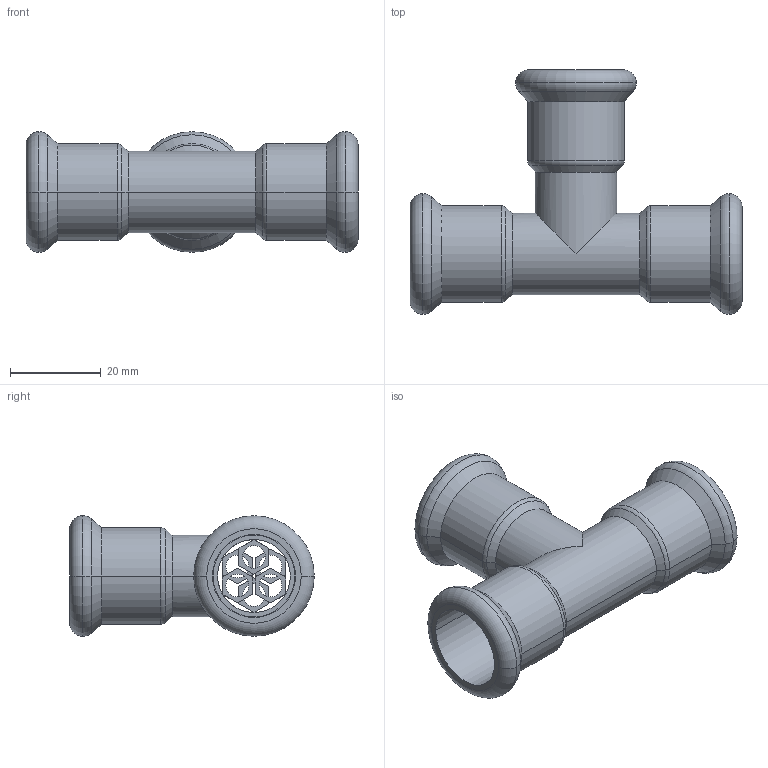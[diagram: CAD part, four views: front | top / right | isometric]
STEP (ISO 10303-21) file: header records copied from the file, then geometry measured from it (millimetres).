
FILE_DESCRIPTION(('OneSpaceDesigner STEP Export'),'2;1');
FILE_NAME('R2714 18x18x18.stp','2010-06-10T 8:36:35',(''),(''),'OneSpace Designer STEP processor for AP214 (Solid Model)','OneSpace Modeling 15.00A 14-Mar-2007 (C) CoCreate Software GmbH','');
FILE_SCHEMA(('AUTOMOTIVE_DESIGN { 1 0 10303 214 1 1 1 1 }'));
Length unit declared in the file: millimetre
Products named in the file (2): R2714_18x18x18
Assembly tree (1 placements, depth 2):
  R2714_18x18x18
    R2714_18x18x18
Bounding box: 73 x 53.75 x 26.5 mm (x, y, z)
Volume: 11365.1 mm3; surface area: 14531.6 mm2
Topology: 1 solids, 1 shells, 173 faces, 435 edges, 278 vertices
Faces by surface type: plane 90, cylinder 53, torus 18, cone 12
Entity records: 4677 total; most frequent: ORIENTED_EDGE 870, CARTESIAN_POINT 767, DIRECTION 715, EDGE_CURVE 435, VERTEX_POINT 278, VECTOR 263, LINE 263, AXIS2_PLACEMENT_3D 226
